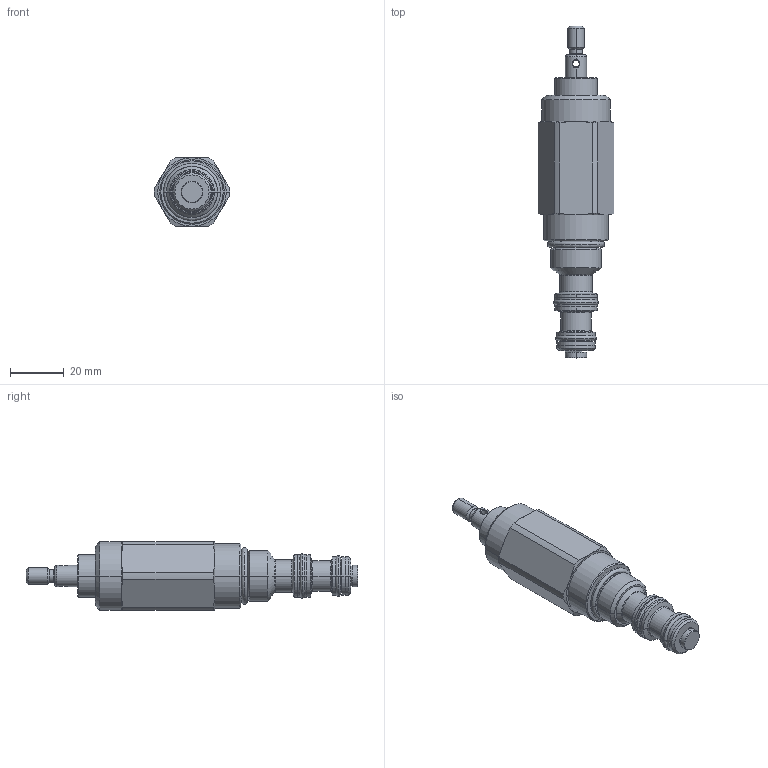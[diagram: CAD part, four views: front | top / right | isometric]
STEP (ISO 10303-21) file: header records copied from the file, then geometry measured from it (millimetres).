
FILE_DESCRIPTION((''),'2;1');
FILE_NAME('5270300_SW0001','2009-02-04T',('jcs'),(''),'PRO/ENGINEER BY PARAMETRIC TECHNOLOGY CORPORATION, 2008010','PRO/ENGINEER BY PARAMETRIC TECHNOLOGY CORPORATION, 2008010','');
FILE_SCHEMA(('CONFIG_CONTROL_DESIGN'));
Length unit declared in the file: inch
Products named in the file (1): 5270300_SW0001
Bounding box: 28.04 x 123.09 x 25.4 mm (x, y, z)
Volume: 37542.3 mm3; surface area: 9917 mm2
Topology: 4 solids, 4 shells, 171 faces, 369 edges, 216 vertices
Faces by surface type: cylinder 50, cone 43, plane 32, revolution 24, torus 22
Entity records: 5257 total; most frequent: CARTESIAN_POINT 1416, DIRECTION 857, ORIENTED_EDGE 738, EDGE_CURVE 369, AXIS2_PLACEMENT_3D 363, VERTEX_POINT 216, CIRCLE 216, EDGE_LOOP 189
